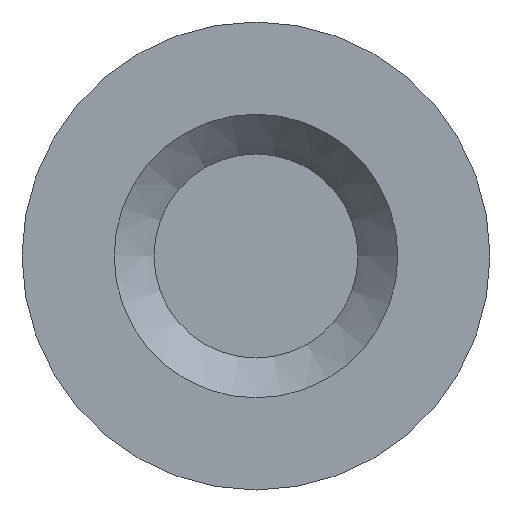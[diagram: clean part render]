
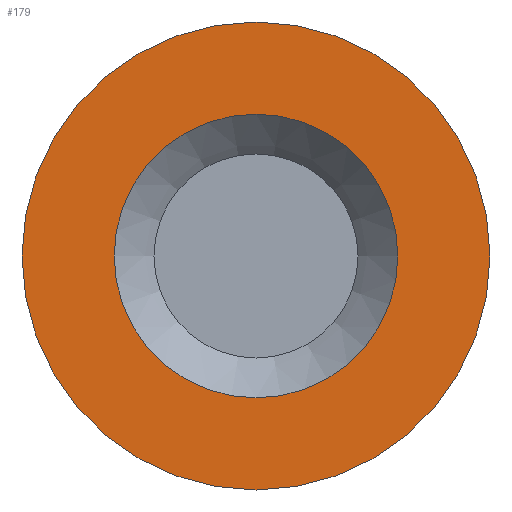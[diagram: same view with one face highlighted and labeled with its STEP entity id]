
A CAD part, left-side view. The second image highlights one B-rep face of the part: STEP entity #179.
In plain terms, the highlighted planar face has unit normal (-1, 0, 0).
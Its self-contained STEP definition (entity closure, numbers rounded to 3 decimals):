
#15=PLANE($,#205);
#28=FACE_BOUND($,#65,.T.);
#44=FACE_OUTER_BOUND($,#64,.T.);
#64=EDGE_LOOP($,(#144));
#65=EDGE_LOOP($,(#145));
#91=CIRCLE($,#204,1.448);
#92=CIRCLE($,#206,2.388);
#107=VERTEX_POINT($,#311);
#108=VERTEX_POINT($,#314);
#123=EDGE_CURVE($,#107,#107,#91,.T.);
#124=EDGE_CURVE($,#108,#108,#92,.T.);
#144=ORIENTED_EDGE($,*,*,#124,.F.);
#145=ORIENTED_EDGE($,*,*,#123,.T.);
#179=ADVANCED_FACE($,(#44,#28),#15,.T.);
#204=AXIS2_PLACEMENT_3D($,#312,#249,#250);
#205=AXIS2_PLACEMENT_3D($,#313,#251,#252);
#206=AXIS2_PLACEMENT_3D($,#315,#253,#254);
#249=DIRECTION('center_axis',(1.,0.,0.));
#250=DIRECTION('ref_axis',(0.,1.,0.));
#251=DIRECTION('center_axis',(-1.,0.,0.));
#252=DIRECTION('ref_axis',(0.,0.,1.));
#253=DIRECTION('center_axis',(1.,0.,0.));
#254=DIRECTION('ref_axis',(0.,1.,0.));
#311=CARTESIAN_POINT('',(6.199,1.448,0.));
#312=CARTESIAN_POINT('Origin',(6.199,0.,0.));
#313=CARTESIAN_POINT('Origin',(6.199,1.918,0.));
#314=CARTESIAN_POINT('',(6.199,2.388,0.));
#315=CARTESIAN_POINT('Origin',(6.199,0.,0.));
